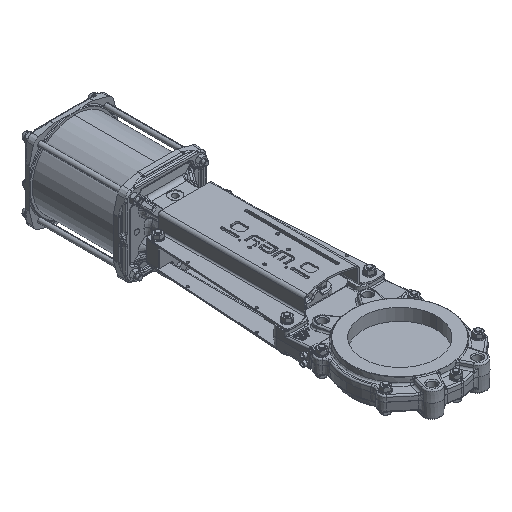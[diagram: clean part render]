
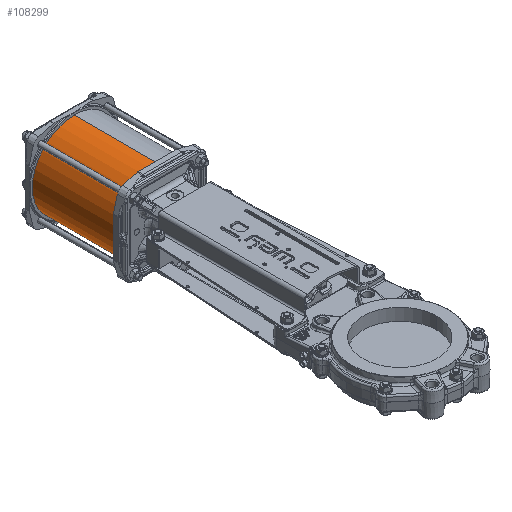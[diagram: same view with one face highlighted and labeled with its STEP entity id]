
A CAD part, isometric view. The second image highlights one B-rep face of the part: STEP entity #108299.
In plain terms, the highlighted cylindrical face has radius 85 mm (diameter 170 mm), a partial arc.
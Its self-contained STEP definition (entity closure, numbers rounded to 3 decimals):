
#5132 = AXIS2_PLACEMENT_3D ( 'NONE', #25149, #126993, #39830 ) ;
#8559 = EDGE_LOOP ( 'NONE', ( #98547, #122842, #109801, #185030 ) ) ;
#10506 = CARTESIAN_POINT ( 'NONE',  ( 0., 490., -85.25 ) ) ;
#20558 = CARTESIAN_POINT ( 'NONE',  ( 0., 664., -85.25 ) ) ;
#24065 = VERTEX_POINT ( 'NONE', #10506 ) ;
#25149 = CARTESIAN_POINT ( 'NONE',  ( 0., 490., -0.25 ) ) ;
#26895 = CIRCLE ( 'NONE', #166943, 85. ) ;
#35924 = CARTESIAN_POINT ( 'NONE',  ( 0., 664., -0.25 ) ) ;
#39830 = DIRECTION ( 'NONE',  ( 0., 0., -1. ) ) ;
#50620 = DIRECTION ( 'NONE',  ( 1., 0., 0. ) ) ;
#51198 = EDGE_CURVE ( 'NONE', #138011, #153478, #161519, .T. ) ;
#55007 = CARTESIAN_POINT ( 'NONE',  ( 0., 490., 84.75 ) ) ;
#58992 = CARTESIAN_POINT ( 'NONE',  ( 0., 485.641, -0.25 ) ) ;
#65381 = CIRCLE ( 'NONE', #5132, 85. ) ;
#68050 = CARTESIAN_POINT ( 'NONE',  ( 0., 664., 84.75 ) ) ;
#72053 = CARTESIAN_POINT ( 'NONE',  ( 0., 485.641, -85.25 ) ) ;
#73594 = DIRECTION ( 'NONE',  ( 0., -1., 0. ) ) ;
#84272 = VECTOR ( 'NONE', #90114, 1000. ) ;
#86047 = EDGE_CURVE ( 'NONE', #24065, #153478, #65381, .T. ) ;
#89584 = FACE_OUTER_BOUND ( 'NONE', #8559, .T. ) ;
#90114 = DIRECTION ( 'NONE',  ( 0., -1., 0. ) ) ;
#98547 = ORIENTED_EDGE ( 'NONE', *, *, #51198, .F. ) ;
#108299 = ADVANCED_FACE ( 'NONE', ( #89584 ), #148517, .T. ) ;
#109801 = ORIENTED_EDGE ( 'NONE', *, *, #165406, .T. ) ;
#110495 = AXIS2_PLACEMENT_3D ( 'NONE', #58992, #73594, #132152 ) ;
#122842 = ORIENTED_EDGE ( 'NONE', *, *, #141594, .T. ) ;
#126993 = DIRECTION ( 'NONE',  ( 0., 1., 0. ) ) ;
#132152 = DIRECTION ( 'NONE',  ( 0., 0., -1. ) ) ;
#137642 = DIRECTION ( 'NONE',  ( 0., -1., 0. ) ) ;
#138011 = VERTEX_POINT ( 'NONE', #68050 ) ;
#141594 = EDGE_CURVE ( 'NONE', #138011, #158407, #26895, .T. ) ;
#142884 = LINE ( 'NONE', #72053, #181452 ) ;
#148517 = CYLINDRICAL_SURFACE ( 'NONE', #110495, 85. ) ;
#153478 = VERTEX_POINT ( 'NONE', #55007 ) ;
#158407 = VERTEX_POINT ( 'NONE', #20558 ) ;
#159093 = DIRECTION ( 'NONE',  ( 0., -1., 0. ) ) ;
#161519 = LINE ( 'NONE', #176965, #84272 ) ;
#165406 = EDGE_CURVE ( 'NONE', #158407, #24065, #142884, .T. ) ;
#166943 = AXIS2_PLACEMENT_3D ( 'NONE', #35924, #137642, #50620 ) ;
#176965 = CARTESIAN_POINT ( 'NONE',  ( 0., 485.641, 84.75 ) ) ;
#181452 = VECTOR ( 'NONE', #159093, 1000. ) ;
#185030 = ORIENTED_EDGE ( 'NONE', *, *, #86047, .T. ) ;
